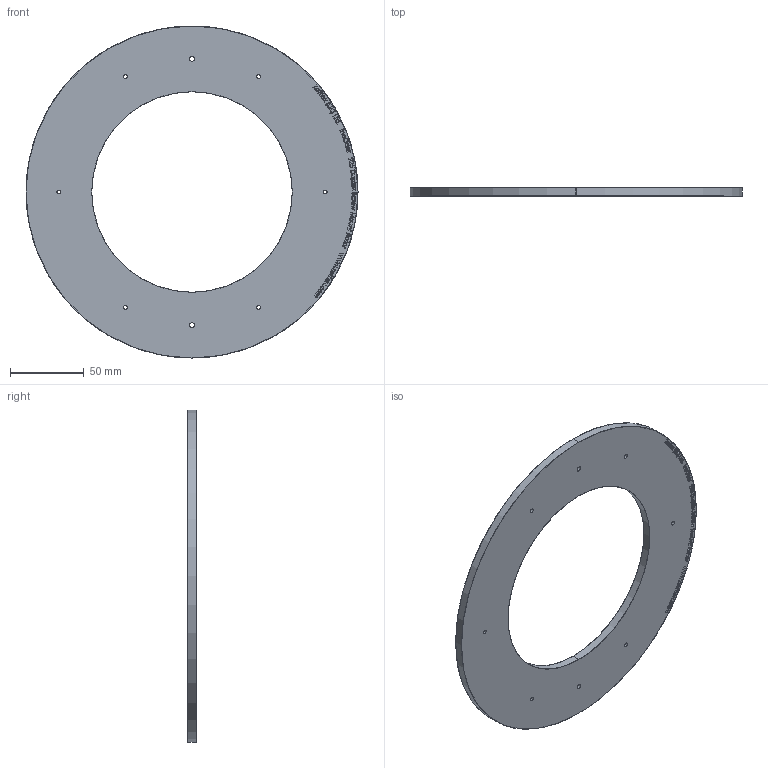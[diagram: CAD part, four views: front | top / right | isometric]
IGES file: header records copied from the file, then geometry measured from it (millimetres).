
Start section: SolidWorks IGES file using analytic representation for surfaces
Global section: file name: C:\Zettlex Data\Mechanical Drawings\1011\225 Duplex Screw Mount Rotor Rev 1-2.IGS; native system: SolidWorks 2015; preprocessor: SolidWorks 2015; author: Nigel; date: 150914.153809; units: millimetre
Bounding box: 225 x 5.6 x 225 mm (x, y, z)
Surface area: 57500.4 mm2 (no closed solid volume)
Topology: 0 solids, 0 shells, 795 faces, 9529 edges, 9529 vertices
Faces by surface type: bspline 763, revolution 32
